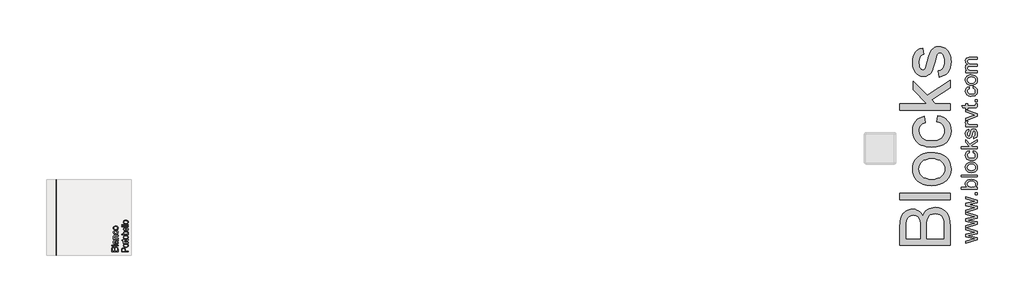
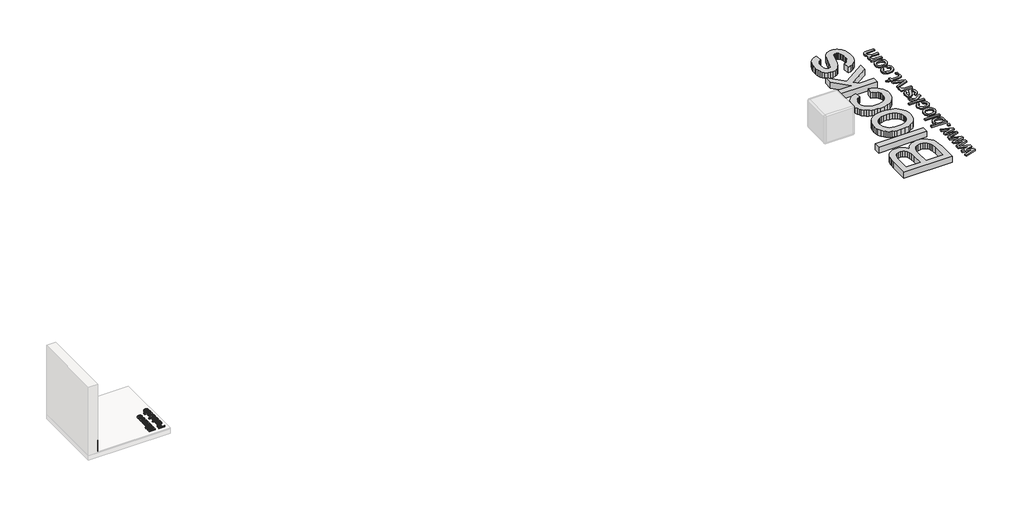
# One storey, part 14 of 14: 5 proxies.
"""IFC4 building model written with IfcOpenShell, lengths in millimetres."""

from ifc_helpers import new_model, si_unit, frame, origin, origin_with_axes, place, context, project, spatial, polyline, outline, extrude, element, save
from ifc_brep_helpers import plane_surface, extruded_surface, spline_curve, advanced_brep

model = new_model("IFC4")

# Units and contexts
model_context = context("Model", 3, world=origin())
ifc_project = project(units=[si_unit("LENGTHUNIT", "METRE", prefix="MILLI")], contexts=[model_context])

# Site, building, storey
site = spatial("IfcSite", under=ifc_project)
building = spatial("IfcBuilding", under=site)
storey = spatial("IfcBuildingStorey", under=building, Name="PORTOBELLO - SHOWROOM", Elevation=0.0)

# Proxies
placement = place(None, origin())
element("IfcBuildingElementProxy", 1, Name="RODAPE CRISTALLO BIANCO 20X120 POL RET", ObjectType="RODAPE CRISTALLO BIANCO 20X120 POL RET", at=placement, inside=storey, context=model_context, shape_type="AdvancedBrep", body=[
    advanced_brep(
    [(-11677.661959, 32135.3842114, 217.0), (-11677.661959, 32135.3842114, 17.0), (-11670.661959, 32135.3842114, 17.0), (-11670.661959, 32135.3842114, 210.0), (-11677.661959, 33335.3842114, 217.0), (-11670.661959, 33335.3842114, 210.0), (-11670.661959, 33335.3842114, 17.0), (-11677.661959, 33335.3842114, 17.0)],
    [
        (0, 1),
        (1, 2),
        (2, 3),
        (3, 0, spline_curve(3, [(-11670.661959, 32135.3842114, 210.0), (-11670.661959, 32135.3842114, 214.666666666), (-11672.995292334, 32135.3842114, 217.0), (-11677.661959, 32135.3842114, 217.0)], [4, 4], [0.0, 0.029527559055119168])),
        (4, 5, spline_curve(3, [(-11677.661959, 33335.3842114, 217.0), (-11672.995292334, 33335.3842114, 217.0), (-11670.661959, 33335.3842114, 214.666666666), (-11670.661959, 33335.3842114, 210.0)], [4, 4], [0.0, 0.029527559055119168])),
        (5, 6),
        (6, 7),
        (7, 4),
        (0, 4),
        (7, 1),
        (6, 2),
        (5, 3),
    ],
    [
        plane_surface(frame((-11877.661959, 32135.3842114, 17.0), z_axis=(0.0, -1.0, 0.0), x_axis=(0.0, 0.0, 1.0))),
        plane_surface(frame((-11877.661959, 33335.3842114, 17.0), z_axis=(0.0, 1.0, 0.0), x_axis=(0.0, 0.0, 1.0))),
        plane_surface(frame((-11677.661959, 32135.3842114, 217.0), z_axis=(-1.0, 0.0, 0.0), x_axis=(0.0, 1.0, 0.0))),
        plane_surface(frame((-11677.661959, 32135.3842114, 17.0), z_axis=(0.0, 0.0, -1.0), x_axis=(0.0, 1.0, 0.0))),
        plane_surface(frame((-11670.661959, 32135.3842114, 17.0), z_axis=(1.0, 0.0, 0.0), x_axis=(0.0, 1.0, 0.0))),
        extruded_surface(spline_curve(3, [(-11670.661959, 33335.3842114, 210.0), (-11670.661959, 33335.3842114, 214.666666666), (-11672.995292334, 33335.3842114, 217.0), (-11677.661959, 33335.3842114, 217.0)], [4, 4], [0.0, 0.029527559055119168]), (0.0, -1200.0, 0.0), 1200.0),
    ],
    [
        (0, [[1, 2, 3, 4]]),
        (1, [[5, 6, 7, 8]]),
        (2, [[-1, 9, -8, 10]]),
        (3, [[-2, -10, -7, 11]]),
        (4, [[-3, -11, -6, 12]]),
        (5, [[-4, -12, -5, -9]]),
    ],
),
])
element("IfcBuildingElementProxy", 2, Name="10mm Arial", ObjectType="10mm Arial", at=placement, inside=storey, context=model_context, shape_type="SweptSolid", body=[
    extrude(outline(polyline([(-10690.4182558, 32194.2602677), (-10790.8745659, 32194.2602677), (-10790.8745659, 32232.5935716), (-10787.9192472, 32251.3678161), (-10778.832562, 32262.4533269), (-10765.9812176, 32266.4632406), (-10754.245782, 32263.090989), (-10745.3553004, 32252.9006577), (-10735.9865723, 32265.2737555), (-10720.3638502, 32269.6025003), (-10706.862581, 32266.6471816), (-10697.2485982, 32259.3263299), (-10692.1473012, 32248.4002346), (-10690.4182558, 32232.299266), (-10690.4182558, 32194.2602677)]), holes=[polyline([(-10750.0641899, 32206.8173065), (-10750.0641899, 32229.7486175), (-10751.1433105, 32243.1395221), (-10755.7908863, 32251.1961378), (-10763.9701294, 32253.9062018), (-10772.1616351, 32251.3800788), (-10777.0054147, 32244.1450662), (-10778.3175272, 32228.0073094), (-10778.3175272, 32206.8173065), (-10750.0641899, 32206.8173065)]), polyline([(-10702.9752946, 32206.8173065), (-10702.9752946, 32232.5690461), (-10703.4658039, 32241.8887233), (-10706.2003934, 32249.7736608), (-10711.779937, 32254.9975851), (-10720.2412229, 32257.0454615), (-10730.0023585, 32254.6419658), (-10735.8271567, 32246.8551303), (-10737.5071512, 32231.3427728), (-10737.5071512, 32206.8173065), (-10702.9752946, 32206.8173065)])]), frame((0.0, 0.0, 17.0), z_axis=(0.0, 0.0, 1.0), x_axis=(1.0, 0.0, 0.0)), (0.0, 0.0, 1.0), 20.0),
    extrude(outline(polyline([(-10778.3175272, 32285.2987988), (-10790.8745659, 32285.2987988), (-10790.8745659, 32297.8558375), (-10778.3175272, 32297.8558375), (-10778.3175272, 32285.2987988)])), frame((0.0, 0.0, 17.0), z_axis=(0.0, 0.0, 1.0), x_axis=(1.0, 0.0, 0.0)), (0.0, 0.0, 1.0), 20.0),
    extrude(outline(polyline([(-10690.4182558, 32285.2987988), (-10764.1908586, 32285.2987988), (-10764.1908586, 32297.8558375), (-10690.4182558, 32297.8558375), (-10690.4182558, 32285.2987988)])), frame((0.0, 0.0, 17.0), z_axis=(0.0, 0.0, 1.0), x_axis=(1.0, 0.0, 0.0)), (0.0, 0.0, 1.0), 20.0),
    extrude(outline(polyline([(-10699.8360349, 32363.7802911), (-10691.325698, 32351.603397), (-10688.8486259, 32338.1511787), (-10690.338548, 32327.6573448), (-10694.8083143, 32319.9164945), (-10701.5957371, 32315.1432256), (-10710.0386289, 32313.552136), (-10719.9714427, 32315.9556317), (-10727.1819298, 32322.2709393), (-10731.3022082, 32331.063319), (-10733.1906691, 32341.9281005), (-10737.5071512, 32363.7067147), (-10740.3030543, 32363.7802911), (-10749.5736806, 32360.3222003), (-10753.2034496, 32346.4407864), (-10750.7876912, 32333.7365948), (-10742.2160407, 32327.6788046), (-10743.7856706, 32315.1217658), (-10756.0484037, 32320.5541566), (-10763.2343654, 32331.4925146), (-10765.7604884, 32348.0594671), (-10763.528671, 32363.277519), (-10757.9246019, 32371.873695), (-10749.4020023, 32375.7241932), (-10738.4145934, 32376.3373298), (-10722.7918714, 32376.3373298), (-10700.9764691, 32376.974992), (-10690.4182558, 32379.4765895), (-10690.4182558, 32366.9195508), (-10699.8360349, 32363.7802911)]), holes=[polyline([(-10724.9501124, 32363.7802911), (-10721.0996142, 32343.5222559), (-10719.0640005, 32332.7187879), (-10715.7530625, 32327.8259574), (-10710.9215457, 32326.1091748), (-10704.1279915, 32329.8493084), (-10701.4056647, 32340.8244546), (-10704.4100343, 32353.5286461), (-10711.6818351, 32361.7201519), (-10721.3939198, 32363.7067147), (-10724.9501124, 32363.7802911)])]), frame((0.0, 0.0, 17.0), z_axis=(0.0, 0.0, 1.0), x_axis=(1.0, 0.0, 0.0)), (0.0, 0.0, 1.0), 20.0),
    extrude(outline(polyline([(-10690.4182558, 32393.6032581), (-10764.1908586, 32393.6032581), (-10764.1908586, 32406.1602969), (-10753.8901627, 32406.1602969), (-10762.792907, 32415.762017), (-10765.7604884, 32428.8708787), (-10763.3692554, 32440.7289417), (-10757.090736, 32448.8223456), (-10747.856898, 32452.5870047), (-10735.7167921, 32453.2491923), (-10690.4182558, 32453.2491923), (-10690.4182558, 32440.6921535), (-10734.024535, 32440.6921535), (-10745.1345712, 32439.245151), (-10751.0084204, 32434.1315913), (-10753.2034496, 32425.5108899), (-10748.2738309, 32411.8869933), (-10741.1307888, 32407.591971), (-10729.5609001, 32406.1602969), (-10690.4182558, 32406.1602969), (-10690.4182558, 32393.6032581)])), frame((0.0, 0.0, 17.0), z_axis=(0.0, 0.0, 1.0), x_axis=(1.0, 0.0, 0.0)), (0.0, 0.0, 1.0), 20.0),
    extrude(outline(polyline([(-10717.1019632, 32517.604016), (-10715.5323333, 32530.1610547), (-10704.3640491, 32526.6600444), (-10695.924223, 32520.0810881), (-10690.6175252, 32511.0434537), (-10688.8486259, 32500.1664094), (-10691.316501, 32486.8092273), (-10698.7201261, 32476.3644443), (-10710.734539, 32469.6230068), (-10727.034777, 32467.3758609), (-10747.8936862, 32471.2140964), (-10761.2968535, 32482.9127438), (-10765.7604884, 32499.9947311), (-10764.2276468, 32510.605061), (-10759.6291218, 32519.0878067), (-10752.2101682, 32525.173188), (-10742.2160407, 32528.5914249), (-10740.6464109, 32516.0343861), (-10750.0519272, 32510.2095879), (-10753.2034496, 32500.092833), (-10751.6522139, 32491.9779693), (-10746.9985066, 32485.5369687), (-10738.9909419, 32481.3339169), (-10727.3781336, 32479.9328997), (-10715.6089754, 32481.3032601), (-10707.5738195, 32485.4143414), (-10702.9477034, 32491.738846), (-10701.4056647, 32499.7494765), (-10705.2561629, 32511.583014), (-10717.1019632, 32517.604016)])), frame((0.0, 0.0, 17.0), z_axis=(0.0, 0.0, 1.0), x_axis=(1.0, 0.0, 0.0)), (0.0, 0.0, 1.0), 20.0),
    extrude(outline(polyline([(-10727.3045572, 32538.009204), (-10745.0916516, 32540.7253994), (-10757.5935081, 32548.8739856), (-10763.7187433, 32558.9416895), (-10765.7604884, 32570.9959562), (-10763.2742193, 32584.1875914), (-10755.8154118, 32594.7243449), (-10743.9726772, 32601.6313294), (-10728.3346268, 32603.9336575), (-10705.9919269, 32599.8624301), (-10693.349049, 32588.0043671), (-10688.8486259, 32570.9959562), (-10691.325698, 32557.6449055), (-10698.7569143, 32547.1204147), (-10710.8479693, 32540.2870067), (-10727.3045572, 32538.009204)]), holes=[polyline([(-10727.3290826, 32550.5662427), (-10715.9645947, 32552.0193766), (-10707.8681251, 32556.3787783), (-10703.0212798, 32562.9393405), (-10701.4056647, 32570.9959562), (-10703.0304769, 32579.0157837), (-10707.9049133, 32585.5640832), (-10716.1086818, 32589.9234849), (-10727.7214901, 32591.3766187), (-10738.7548843, 32589.9142878), (-10746.7409893, 32585.527295), (-10751.5878345, 32578.9697985), (-10753.2034496, 32570.9959562), (-10751.5939659, 32562.9393405), (-10746.7655147, 32556.3787783), (-10738.6874392, 32552.0193766), (-10727.3290826, 32550.5662427)])]), frame((0.0, 0.0, 17.0), z_axis=(0.0, 0.0, 1.0), x_axis=(1.0, 0.0, 0.0)), (0.0, 0.0, 1.0), 20.0),
])
element("IfcBuildingElementProxy", 3, Name="10mm Arial Narrow", ObjectType="10mm Arial Narrow", at=placement, inside=storey, context=model_context, shape_type="SweptSolid", body=[
    extrude(outline(polyline([(-10530.4182558, 32191.3953268), (-10631.1368595, 32191.3953268), (-10631.1368595, 32222.6922115), (-10629.2585388, 32238.987913), (-10619.7780956, 32250.4608991), (-10602.7589868, 32254.7505776), (-10590.6831613, 32252.9642692), (-10581.0567675, 32247.6053439), (-10574.7555091, 32237.8615551), (-10572.6550896, 32222.9206559), (-10572.6550896, 32201.1422885), (-10530.4182558, 32201.1422885), (-10530.4182558, 32191.3953268)]), holes=[polyline([(-10584.0265449, 32201.1422885), (-10584.0265449, 32224.1136434), (-10588.5573591, 32239.9778388), (-10602.2259498, 32245.0036159), (-10612.3917263, 32242.5288014), (-10618.1916761, 32236.5511726), (-10619.7654043, 32223.885199), (-10619.7654043, 32201.1422885), (-10584.0265449, 32201.1422885)])]), frame((0.0, 0.0, 17.0), z_axis=(0.0, 0.0, 1.0), x_axis=(1.0, 0.0, 0.0)), (0.0, 0.0, 1.0), 20.0),
    extrude(outline(polyline([(-10566.969362, 32262.8730456), (-10583.5601375, 32264.8275145), (-10595.5122224, 32270.6909211), (-10602.7367769, 32279.5494878), (-10605.1449618, 32290.4894369), (-10602.7367769, 32301.3024725), (-10595.5122224, 32310.186422), (-10583.7505079, 32316.1259767), (-10567.7308434, 32318.1058283), (-10550.5689568, 32316.1608779), (-10538.4265016, 32310.3260269), (-10531.201947, 32301.4769787), (-10528.7937622, 32290.4894369), (-10531.2082927, 32279.6288088), (-10538.4518843, 32270.7543779), (-10550.4103148, 32264.8433787), (-10566.969362, 32262.8730456)]), holes=[polyline([(-10566.9947447, 32272.6200073), (-10554.4429933, 32273.9240441), (-10545.5717352, 32277.8361547), (-10540.2984767, 32283.6773514), (-10538.5407238, 32290.7686468), (-10540.3143409, 32297.48872), (-10545.635192, 32303.1807933), (-10554.5223143, 32307.0643483), (-10566.9947447, 32308.3588666), (-10579.508422, 32307.0548298), (-10588.3669887, 32303.1427192), (-10593.6402473, 32297.3015225), (-10595.3980001, 32290.2102271), (-10593.6307288, 32283.4425614), (-10588.3289147, 32277.7600066), (-10579.4608294, 32273.9050071), (-10566.9947447, 32272.6200073)])]), frame((0.0, 0.0, 17.0), z_axis=(0.0, 0.0, 1.0), x_axis=(1.0, 0.0, 0.0)), (0.0, 0.0, 1.0), 20.0),
    extrude(outline(polyline([(-10538.5407238, 32389.5835471), (-10528.7937622, 32391.2080407), (-10528.7937622, 32383.847054), (-10530.9132187, 32375.5722897), (-10536.7131685, 32371.2572286), (-10551.3589937, 32370.0896238), (-10593.7735065, 32370.0896238), (-10593.7735065, 32361.9671557), (-10597.0224938, 32361.9671557), (-10592.1490129, 32360.3426621), (-10593.7735065, 32352.7786138), (-10591.4509883, 32346.6994541), (-10584.9657053, 32342.8285904), (-10569.5583987, 32340.8487388), (-10530.4182558, 32340.8487388), (-10530.4182558, 32331.1017772), (-10603.5204682, 32331.1017772), (-10603.5204682, 32340.8487388), (-10593.824272, 32340.8487388), (-10602.9112831, 32347.0928861), (-10605.1449618, 32353.4893297), (-10603.5204682, 32361.9671557), (-10603.5204682, 32370.0896238), (-10619.7654043, 32370.0896238), (-10627.8878723, 32379.8365854), (-10603.5204682, 32379.8365854), (-10603.5204682, 32389.5835471), (-10593.7735065, 32389.5835471), (-10593.7735065, 32379.8365854), (-10549.125315, 32379.8365854), (-10541.1297605, 32380.6995977), (-10538.5407238, 32385.3192514), (-10538.5407238, 32389.5835471)])), frame((0.0, 0.0, 17.0), z_axis=(0.0, 0.0, 1.0), x_axis=(1.0, 0.0, 0.0)), (0.0, 0.0, 1.0), 20.0),
    extrude(outline(polyline([(-10566.969362, 32396.0815215), (-10583.5601375, 32398.0359904), (-10595.5122224, 32403.899397), (-10602.7367769, 32412.7579637), (-10605.1449618, 32423.6979129), (-10602.7367769, 32434.5109485), (-10595.5122224, 32443.3948979), (-10583.7505079, 32449.3344526), (-10567.7308434, 32451.3143042), (-10550.5689568, 32449.3693539), (-10538.4265016, 32443.5345028), (-10531.201947, 32434.6854546), (-10528.7937622, 32423.6979129), (-10531.2082927, 32412.8372847), (-10538.4518843, 32403.9628538), (-10550.4103148, 32398.0518546), (-10566.969362, 32396.0815215)]), holes=[polyline([(-10566.9947447, 32405.8284832), (-10554.4429933, 32407.13252), (-10545.5717352, 32411.0446306), (-10540.2984767, 32416.8858274), (-10538.5407238, 32423.9771227), (-10540.3143409, 32430.6971959), (-10545.635192, 32436.3892692), (-10554.5223143, 32440.2728242), (-10566.9947447, 32441.5673426), (-10579.508422, 32440.2633057), (-10588.3669887, 32436.3511951), (-10593.6402473, 32430.5099984), (-10595.3980001, 32423.418703), (-10593.6307288, 32416.6510373), (-10588.3289147, 32410.9684825), (-10579.4608294, 32407.113483), (-10566.9947447, 32405.8284832)])]), frame((0.0, 0.0, 17.0), z_axis=(0.0, 0.0, 1.0), x_axis=(1.0, 0.0, 0.0)), (0.0, 0.0, 1.0), 20.0),
    extrude(outline(polyline([(-10530.4182558, 32474.0572148), (-10530.4182558, 32464.3102531), (-10631.1368595, 32464.3102531), (-10631.1368595, 32474.0572148), (-10595.7279754, 32474.0572148), (-10602.8097522, 32481.4562755), (-10605.1449618, 32490.6575088), (-10600.9441229, 32503.5392355), (-10588.2146925, 32512.816617), (-10567.5277817, 32516.2940486), (-10551.0734382, 32514.3617896), (-10538.8706991, 32508.5650126), (-10531.3129964, 32500.1918903), (-10528.7937622, 32490.5305953), (-10531.4081816, 32481.189757), (-10539.1752916, 32474.0572148), (-10530.4182558, 32474.0572148)]), holes=[polyline([(-10567.5277817, 32474.0572148), (-10550.2802284, 32476.1385972), (-10541.5485753, 32482.0273865), (-10538.5407238, 32490.4798298), (-10540.3302051, 32496.4225574), (-10545.6986488, 32501.6609148), (-10567.1216583, 32506.5470869), (-10588.5573591, 32501.8385937), (-10593.6878399, 32496.5938907), (-10595.3980001, 32490.2767681), (-10593.6085189, 32484.2991393), (-10588.2400752, 32479.0068437), (-10567.5277817, 32474.0572148)])]), frame((0.0, 0.0, 17.0), z_axis=(0.0, 0.0, 1.0), x_axis=(1.0, 0.0, 0.0)), (0.0, 0.0, 1.0), 20.0),
    extrude(outline(polyline([(-10553.1611663, 32568.2778441), (-10551.5366727, 32578.0248057), (-10541.6501061, 32574.3252754), (-10534.5302552, 32568.5062885), (-10530.2278854, 32560.8026352), (-10528.7937622, 32551.4491056), (-10531.2082927, 32539.8555516), (-10538.4518843, 32530.7114294), (-10550.2580186, 32524.7718746), (-10566.3601769, 32522.792023), (-10583.0271006, 32524.7813931), (-10595.2076298, 32530.7495034), (-10602.6606288, 32539.7635393), (-10605.1449618, 32550.8906859), (-10602.7462955, 32561.5736351), (-10595.5502964, 32570.3211524), (-10583.8107918, 32576.1560035), (-10567.7816088, 32578.1009539), (-10564.5326216, 32578.0248057), (-10564.5326216, 32532.5389847), (-10545.0894637, 32538.5419962), (-10540.1779088, 32544.4720325), (-10538.5407238, 32551.5760192), (-10542.1958345, 32561.7544869), (-10553.1611663, 32568.2778441)]), holes=[polyline([(-10574.2795832, 32533.1989352), (-10574.2795832, 32568.2778441), (-10588.5446677, 32564.0135484), (-10593.684667, 32558.1882158), (-10595.3980001, 32550.9668341), (-10589.6868898, 32538.7577493), (-10574.2795832, 32533.1989352)])]), frame((0.0, 0.0, 17.0), z_axis=(0.0, 0.0, 1.0), x_axis=(1.0, 0.0, 0.0)), (0.0, 0.0, 1.0), 20.0),
    extrude(outline(polyline([(-10530.4182558, 32591.0207546), (-10631.1368595, 32591.0207546), (-10631.1368595, 32600.7677163), (-10530.4182558, 32600.7677163), (-10530.4182558, 32591.0207546)])), frame((0.0, 0.0, 17.0), z_axis=(0.0, 0.0, 1.0), x_axis=(1.0, 0.0, 0.0)), (0.0, 0.0, 1.0), 20.0),
    extrude(outline(polyline([(-10530.4182558, 32617.0126523), (-10631.1368595, 32617.0126523), (-10631.1368595, 32626.759614), (-10530.4182558, 32626.759614), (-10530.4182558, 32617.0126523)])), frame((0.0, 0.0, 17.0), z_axis=(0.0, 0.0, 1.0), x_axis=(1.0, 0.0, 0.0)), (0.0, 0.0, 1.0), 20.0),
    extrude(outline(polyline([(-10566.969362, 32638.1310693), (-10583.5601375, 32640.0855381), (-10595.5122224, 32645.9489448), (-10602.7367769, 32654.8075115), (-10605.1449618, 32665.7474606), (-10602.7367769, 32676.5604962), (-10595.5122224, 32685.4444456), (-10583.7505079, 32691.3840004), (-10567.7308434, 32693.363852), (-10550.5689568, 32691.4189016), (-10538.4265016, 32685.5840505), (-10531.201947, 32676.7350023), (-10528.7937622, 32665.7474606), (-10531.2082927, 32654.8868324), (-10538.4518843, 32646.0124015), (-10550.4103148, 32640.1014023), (-10566.969362, 32638.1310693)]), holes=[polyline([(-10566.9947447, 32647.8780309), (-10554.4429933, 32649.1820678), (-10545.5717352, 32653.0941784), (-10540.2984767, 32658.9353751), (-10538.5407238, 32666.0266704), (-10540.3143409, 32672.7467436), (-10545.635192, 32678.4388169), (-10554.5223143, 32682.322372), (-10566.9947447, 32683.6168903), (-10579.508422, 32682.3128534), (-10588.3669887, 32678.4007429), (-10593.6402473, 32672.5595461), (-10595.3980001, 32665.4682508), (-10593.6307288, 32658.700585), (-10588.3289147, 32653.0180302), (-10579.4608294, 32649.1630307), (-10566.9947447, 32647.8780309)])]), frame((0.0, 0.0, 17.0), z_axis=(0.0, 0.0, 1.0), x_axis=(1.0, 0.0, 0.0)), (0.0, 0.0, 1.0), 20.0),
])
element("IfcBuildingElementProxy", 4, Name="25mm Arial", ObjectType="25mm Arial", at=placement, inside=storey, context=model_context, shape_type="SweptSolid", body=[
    extrude(outline(polyline([(2978.9669276, 32875.993505), (2800.9469451, 32821.6050861), (2978.9669276, 32767.0391207), (2978.9669276, 32729.1472752), (2870.809621, 32704.9896909), (2837.0871048, 32697.999933), (2978.9669276, 32666.9139044), (2978.9669276, 32628.7768042), (2800.9469451, 32574.3883853), (2978.9669276, 32519.82242), (2978.9669276, 32481.9305745), (2870.809621, 32457.7729901), (2837.0871048, 32450.7832322), (2978.9669276, 32419.6972036), (2978.9669276, 32381.5601034), (2794.5354207, 32325.2128445), (2794.5354207, 32357.7704011), (2902.1409042, 32389.6535073), (2940.5845727, 32399.1571255), (2903.5511186, 32406.9439611), (2794.5354207, 32432.2665051), (2794.5354207, 32469.5452139), (2903.2445502, 32494.8677579), (2936.7831255, 32501.7962022), (2901.4051403, 32511.7290161), (2794.5354207, 32543.6121223), (2794.5354207, 32572.4295453), (2794.5354207, 32576.3536199), (2794.5354207, 32604.9871018), (2902.1409042, 32636.8702081), (2940.5845727, 32646.3738263), (2903.5511186, 32654.1606619), (2794.5354207, 32679.4832059), (2794.5354207, 32716.7619147), (2903.2445502, 32742.0844587), (2936.7831255, 32749.0129029), (2901.4051403, 32758.9457168), (2794.5354207, 32790.8288231), (2794.5354207, 32819.646246), (2794.5354207, 32823.5703206), (2794.5354207, 32852.2038026), (2902.1409042, 32884.0869088), (2940.5845727, 32893.5905271), (2903.5511186, 32901.3773626), (2794.5354207, 32926.6999066), (2794.5354207, 32963.9786155), (2903.2445502, 32989.3011595), (2936.7831255, 32996.2296037), (2901.4051403, 33006.1624176), (2794.5354207, 33038.0455238), (2794.5354207, 33070.7870214), (2978.9669276, 33014.2558215), (2978.9669276, 32976.363976), (2870.809621, 32952.2063916), (2837.0871048, 32945.2166337), (2978.9669276, 32914.1306051), (2978.9669276, 32875.993505)])), origin_with_axes(), (0.0, 0.0, 1.0), 20.0),
    extrude(outline(polyline([(2978.9669276, 33100.217581), (2947.5743307, 33100.217581), (2947.5743307, 33131.6101779), (2978.9669276, 33131.6101779), (2978.9669276, 33100.217581)])), origin_with_axes(), (0.0, 0.0, 1.0), 20.0),
    extrude(outline(polyline([(2978.9669276, 33221.8638941), (2978.9669276, 33190.4712972), (2727.8261522, 33190.4712972), (2727.8261522, 33221.8638941), (2820.9616106, 33221.8638941), (2807.6833699, 33232.1875826), (2798.1989122, 33243.8448433), (2792.5082376, 33256.8356763), (2790.611346, 33271.1600814), (2792.3204645, 33287.3315608), (2797.4478198, 33302.613992), (2805.6715152, 33316.1336553), (2816.669654, 33327.016831), (2846.5600661, 33342.0080223), (2883.9920592, 33347.4342818), (2925.8999498, 33341.8164171), (2942.8301858, 33334.7940863), (2957.0779489, 33324.9628232), (2968.3711597, 33313.1618586), (2976.4377389, 33300.2304233), (2981.2776864, 33286.1685172), (2982.8910022, 33270.9761404), (2980.8101697, 33256.1803864), (2974.567672, 33243.0630941), (2964.1635094, 33231.6242633), (2949.5976816, 33221.8638941), (2978.9669276, 33221.8638941)]), holes=[polyline([(2885.4635871, 33221.8638941), (2911.6445225, 33224.0098724), (2929.3641719, 33230.4478073), (2945.9648469, 33246.8951982), (2951.4984053, 33268.2783391), (2947.4210465, 33286.3965274), (2935.1889701, 33301.878228), (2914.8788183, 33312.5008206), (2886.5672331, 33316.0416848), (2857.8417807, 33312.6464406), (2837.7615551, 33302.4607079), (2825.943346, 33287.4618523), (2822.003943, 33269.6272398), (2826.0813017, 33251.5090515), (2838.3133781, 33236.0273509), (2858.2556479, 33225.4047583), (2885.4635871, 33221.8638941)])]), origin_with_axes(), (0.0, 0.0, 1.0), 20.0),
    extrude(outline(polyline([(2978.9669276, 33382.7509533), (2727.8261522, 33382.7509533), (2727.8261522, 33414.1435502), (2978.9669276, 33414.1435502), (2978.9669276, 33382.7509533)])), origin_with_axes(), (0.0, 0.0, 1.0), 20.0),
    extrude(outline(polyline([(2886.7511741, 33453.3842964), (2862.8656692, 33455.0819185), (2842.2834379, 33460.1747849), (2825.0044805, 33468.6628955), (2811.0287968, 33480.5462504), (2795.7157087, 33505.7155102), (2790.611346, 33535.851177), (2792.1652643, 33553.1703715), (2796.8270189, 33568.830265), (2804.59661, 33582.8308574), (2815.4740376, 33595.1721487), (2829.0914195, 33605.2448344), (2845.080874, 33612.4396098), (2863.4424008, 33616.7564751), (2884.1760002, 33618.1954302), (2915.8904938, 33615.6509131), (2940.0327498, 33608.0173617), (2958.112617, 33595.5170381), (2971.6399445, 33578.3722042), (2980.0782378, 33558.008403), (2982.8910022, 33535.851177), (2981.3428321, 33518.2790635), (2976.6983219, 33502.4735501), (2968.9574716, 33488.4346367), (2958.1202812, 33476.1623232), (2944.3706916, 33466.1969365), (2927.8926439, 33459.0788031), (2908.6861381, 33454.8079231), (2886.7511741, 33453.3842964)]), holes=[polyline([(2886.6898605, 33484.7768933), (2915.1010804, 33488.409728), (2935.3422543, 33499.3082321), (2947.4593675, 33515.7096377), (2951.4984053, 33535.851177), (2947.4363749, 33555.9007457), (2935.2502838, 33572.2714945), (2914.7408626, 33583.1699986), (2885.7088418, 33586.8028333), (2858.1253564, 33583.147006), (2838.1600939, 33572.179524), (2826.0429807, 33555.7857826), (2822.003943, 33535.851177), (2826.0276523, 33515.7096377), (2838.0987803, 33499.3082321), (2858.2939689, 33488.409728), (2886.6898605, 33484.7768933)])]), origin_with_axes(), (0.0, 0.0, 1.0), 20.0),
    extrude(outline(polyline([(2912.2576591, 33771.2343402), (2916.1817337, 33802.6269371), (2944.1024443, 33793.8744113), (2965.2020096, 33777.4270205), (2978.468754, 33754.8329346), (2982.8910022, 33727.6403238), (2981.3485803, 33710.0337214), (2976.7213146, 33694.2473685), (2969.009205, 33680.2812651), (2958.2122517, 33668.1354111), (2944.533556, 33658.304148), (2928.1762196, 33651.2818172), (2887.4256244, 33645.6639525), (2859.4895854, 33648.0628497), (2835.2783516, 33655.2595412), (2815.7269564, 33667.3689902), (2801.7704332, 33684.5061599), (2793.4011178, 33705.0079169), (2790.611346, 33727.2111281), (2794.4434502, 33753.7369528), (2805.9397625, 33774.943817), (2824.4871464, 33790.1572703), (2849.4724653, 33798.7028625), (2853.3965399, 33767.3102656), (2839.7005998, 33761.6157589), (2829.882749, 33752.74827), (2823.9736445, 33741.1983081), (2822.003943, 33727.4563828), (2825.8820323, 33707.1692236), (2837.5163004, 33691.0667221), (2857.5352123, 33680.5590926), (2886.5672331, 33677.0565494), (2915.9901285, 33680.4824505), (2936.0780183, 33690.7601538), (2947.6433085, 33706.5714154), (2951.4984053, 33726.5979915), (2949.0918439, 33742.8537771), (2941.8721597, 33756.1818352), (2929.6554118, 33765.8770587), (2912.2576591, 33771.2343402)])), origin_with_axes(), (0.0, 0.0, 1.0), 20.0),
    extrude(outline(polyline([(2978.9669276, 33830.0954594), (2727.8261522, 33830.0954594), (2727.8261522, 33861.4880564), (2862.7775308, 33861.4880564), (2794.5354207, 33931.8761448), (2794.5354207, 33975.2862202), (2863.6359221, 33903.9784268), (2978.9669276, 33979.2102948), (2978.9669276, 33942.5447226), (2885.4635871, 33881.4763114), (2904.9000192, 33861.4880564), (2978.9669276, 33861.4880564), (2978.9669276, 33830.0954594)])), origin_with_axes(), (0.0, 0.0, 1.0), 20.0),
    extrude(outline(polyline([(2924.029883, 33994.9065933), (2920.1058083, 34026.2991902), (2933.5335012, 34031.2502687), (2943.4050014, 34040.830529), (2949.4750543, 34055.1012847), (2951.4984053, 34074.1238496), (2949.6436669, 34092.9164882), (2944.0794517, 34106.1295832), (2936.0167046, 34113.9470756), (2926.6663706, 34116.5529064), (2918.6649372, 34113.9317471), (2912.5642274, 34106.0682695), (2903.6124322, 34073.7559676), (2888.2533589, 34026.4831312), (2880.5355012, 34014.5193021), (2870.3191117, 34005.8510826), (2858.2556479, 34000.5857716), (2844.9965677, 33998.8306679), (2821.6054041, 34004.4715252), (2803.7324705, 34019.8612553), (2794.4434502, 34039.8188535), (2790.611346, 34066.8275233), (2792.1518519, 34087.2603025), (2796.7733695, 34105.0259372), (2804.0237105, 34119.3120213), (2813.4506866, 34129.3061489), (2825.7517408, 34135.9280248), (2841.624316, 34140.097354), (2845.5483907, 34108.7047571), (2835.6692262, 34104.7423615), (2828.2272801, 34096.9018764), (2823.5597772, 34085.10666), (2822.003943, 34069.28007), (2823.4907994, 34051.2538522), (2827.9513686, 34039.2363737), (2834.3893035, 34032.476542), (2841.808257, 34030.2232648), (2850.9439933, 34033.9633984), (2857.8724375, 34045.6743086), (2864.5556271, 34072.7136353), (2879.3322205, 34118.7908552), (2886.3986205, 34130.9616178), (2896.0708513, 34140.1893245), (2908.3795697, 34146.0064586), (2923.3554326, 34147.9455033), (2938.8371333, 34145.6692334), (2953.3991289, 34138.8404239), (2965.8994525, 34127.7196577), (2975.1961371, 34112.5675181), (2980.9672859, 34094.2653888), (2982.8910022, 34073.6946539), (2979.1815254, 34042.0414739), (2968.0530951, 34018.9415503), (2949.6283385, 34003.5211633), (2924.029883, 33994.9065933)])), origin_with_axes(), (0.0, 0.0, 1.0), 20.0),
    extrude(outline(polyline([(2978.9669276, 34346.356526), (2794.5354207, 34281.3640402), (2794.5354207, 34314.5347334), (2905.0226465, 34353.8981069), (2942.1787281, 34365.7316444), (2907.1073112, 34377.3199273), (2794.5354207, 34416.8672417), (2794.5354207, 34450.0992486), (2978.9669276, 34386.0264678), (2978.9669276, 34346.356526)])), origin_with_axes(), (0.0, 0.0, 1.0), 20.0),
    extrude(outline(polyline([(2978.9669276, 34183.2621748), (2794.5354207, 34183.2621748), (2794.5354207, 34210.7306971), (2821.820002, 34210.7306971), (2806.0010762, 34220.8781088), (2796.681399, 34230.2284429), (2790.611346, 34249.8488159), (2793.0332358, 34265.4838007), (2800.2989052, 34281.3640402), (2828.4418779, 34270.8794033), (2822.003943, 34248.8064836), (2823.552113, 34239.433157), (2828.1966232, 34231.0561774), (2845.3644497, 34219.743806), (2882.0300218, 34214.6547717), (2978.9669276, 34214.6547717), (2978.9669276, 34183.2621748)])), origin_with_axes(), (0.0, 0.0, 1.0), 20.0),
    extrude(outline(polyline([(2952.7859923, 34544.2770394), (2979.8866326, 34548.201114), (2982.8910022, 34524.71798), (2981.5880868, 34509.6501466), (2977.6793406, 34498.4144173), (2964.0063931, 34485.2932929), (2928.3831532, 34481.4918456), (2825.9280176, 34481.4918456), (2825.9280176, 34457.9473979), (2794.5354207, 34457.9473979), (2794.5354207, 34481.4918456), (2749.7151309, 34481.4918456), (2731.2597175, 34512.8844425), (2794.5354207, 34512.8844425), (2794.5354207, 34544.2770394), (2825.9280176, 34544.2770394), (2825.9280176, 34512.8844425), (2927.4634482, 34512.8844425), (2943.650256, 34514.5399115), (2949.3830838, 34519.9048572), (2951.4984053, 34530.6040919), (2952.7859923, 34544.2770394)])), origin_with_axes(), (0.0, 0.0, 1.0), 20.0),
    extrude(outline(polyline([(2978.9669276, 34583.5177856), (2947.5743307, 34583.5177856), (2947.5743307, 34614.9103825), (2978.9669276, 34614.9103825), (2978.9669276, 34583.5177856)])), origin_with_axes(), (0.0, 0.0, 1.0), 20.0),
    extrude(outline(polyline([(2912.2576591, 34791.4937402), (2916.1817337, 34822.8863371), (2944.1024443, 34814.1338113), (2965.2020096, 34797.6864204), (2978.468754, 34775.0923346), (2982.8910022, 34747.8997237), (2981.3485803, 34730.2931214), (2976.7213146, 34714.5067685), (2969.009205, 34700.540665), (2958.2122517, 34688.394811), (2944.533556, 34678.5635479), (2928.1762196, 34671.5412171), (2887.4256244, 34665.9233525), (2859.4895854, 34668.3222497), (2835.2783516, 34675.5189412), (2815.7269564, 34687.6283902), (2801.7704332, 34704.7655598), (2793.4011178, 34725.2673168), (2790.611346, 34747.4705281), (2794.4434502, 34773.9963528), (2805.9397625, 34795.203217), (2824.4871464, 34810.4166703), (2849.4724653, 34818.9622625), (2853.3965399, 34787.5696656), (2839.7005998, 34781.8751588), (2829.882749, 34773.0076699), (2823.9736445, 34761.4577081), (2822.003943, 34747.7157827), (2825.8820323, 34727.4286236), (2837.5163004, 34711.3261221), (2857.5352123, 34700.8184926), (2886.5672331, 34697.3159494), (2915.9901285, 34700.7418505), (2936.0780183, 34711.0195537), (2947.6433085, 34726.8308153), (2951.4984053, 34746.8573914), (2949.0918439, 34763.1131771), (2941.8721597, 34776.4412352), (2929.6554118, 34786.1364586), (2912.2576591, 34791.4937402)])), origin_with_axes(), (0.0, 0.0, 1.0), 20.0),
    extrude(outline(polyline([(2886.7511741, 34842.5067102), (2862.8656692, 34844.2043323), (2842.2834379, 34849.2971987), (2825.0044805, 34857.7853093), (2811.0287968, 34869.6686641), (2795.7157087, 34894.837924), (2790.611346, 34924.9735908), (2792.1652643, 34942.2927853), (2796.8270189, 34957.9526788), (2804.59661, 34971.9532712), (2815.4740376, 34984.2945625), (2829.0914195, 34994.3672481), (2845.080874, 35001.5620236), (2863.4424008, 35005.8788889), (2884.1760002, 35007.317844), (2915.8904938, 35004.7733269), (2940.0327498, 34997.1397755), (2958.112617, 34984.6394518), (2971.6399445, 34967.494618), (2980.0782378, 34947.1308168), (2982.8910022, 34924.9735908), (2981.3428321, 34907.4014773), (2976.6983219, 34891.5959639), (2968.9574716, 34877.5570505), (2958.1202812, 34865.284737), (2944.3706916, 34855.3193503), (2927.8926439, 34848.2012169), (2908.6861381, 34843.9303368), (2886.7511741, 34842.5067102)]), holes=[polyline([(2886.6898605, 34873.8993071), (2915.1010804, 34877.5321418), (2935.3422543, 34888.4306459), (2947.4593675, 34904.8320515), (2951.4984053, 34924.9735908), (2947.4363749, 34945.0231595), (2935.2502838, 34961.3939083), (2914.7408626, 34972.2924124), (2885.7088418, 34975.9252471), (2858.1253564, 34972.2694198), (2838.1600939, 34961.3019378), (2826.0429807, 34944.9081964), (2822.003943, 34924.9735908), (2826.0276523, 34904.8320515), (2838.0987803, 34888.4306459), (2858.2939689, 34877.5321418), (2886.6898605, 34873.8993071)])]), origin_with_axes(), (0.0, 0.0, 1.0), 20.0),
    extrude(outline(polyline([(2978.9669276, 35042.6345155), (2794.5354207, 35042.6345155), (2794.5354207, 35074.0271125), (2824.8856853, 35074.0271125), (2810.9444905, 35083.469417), (2800.0229938, 35095.6095229), (2792.964258, 35110.0335627), (2790.611346, 35126.3276694), (2793.0102432, 35143.7867358), (2800.2069348, 35157.78158), (2811.7262397, 35168.2355601), (2827.0929772, 35175.0720338), (2811.1322636, 35186.5146967), (2799.7317538, 35199.5668433), (2792.891448, 35214.2284737), (2790.611346, 35230.4995877), (2794.4051291, 35254.0976849), (2805.7864783, 35271.549087), (2825.0619621, 35282.332628), (2852.5381486, 35285.9271417), (2978.9669276, 35285.9271417), (2978.9669276, 35254.5345448), (2866.0271551, 35254.5345448), (2839.8155629, 35251.6221456), (2826.9090362, 35241.0761951), (2822.003943, 35223.1419478), (2825.1462683, 35206.1350698), (2834.5732445, 35192.2705171), (2850.9286648, 35183.0504746), (2874.8563229, 35179.9771271), (2978.9669276, 35179.9771271), (2978.9669276, 35148.5845302), (2862.5322761, 35148.5845302), (2844.7819698, 35146.7681128), (2832.1206978, 35141.3188608), (2824.5331317, 35131.7309363), (2822.003943, 35117.4985016), (2823.6900688, 35105.404381), (2828.7484462, 35094.2606222), (2837.0564479, 35085.0635723), (2848.4914466, 35078.8095784), (2885.9540965, 35074.0271125), (2978.9669276, 35074.0271125), (2978.9669276, 35042.6345155)])), origin_with_axes(), (0.0, 0.0, 1.0), 20.0),
])
element("IfcBuildingElementProxy", 5, Name="80mm Arial", ObjectType="80mm Arial", at=placement, inside=storey, context=model_context, shape_type="SweptSolid", body=[
    extrude(outline(polyline([(2549.5235049, 32298.0156207), (1750.1348066, 32298.0156207), (1750.1348066, 32603.0557905), (1751.6046298, 32647.3029601), (1756.0140997, 32686.9515954), (1763.363216, 32722.0016965), (1773.651979, 32752.4532633), (1786.9901678, 32779.0808501), (1803.4875618, 32802.659011), (1823.144161, 32823.1877461), (1845.9599655, 32840.6670552), (1870.6481174, 32854.6273269), (1895.9217591, 32864.5989495), (1921.7808906, 32870.5819231), (1948.2255118, 32872.5762477), (1972.6514132, 32870.8990634), (1996.35765, 32865.8675107), (2019.3442223, 32857.4815895), (2041.61113, 32845.7412999), (2062.4631042, 32830.6100487), (2081.2048757, 32812.0512428), (2097.8364445, 32790.0648821), (2112.3578105, 32764.6509668), (2125.21419, 32794.8097888), (2141.9250439, 32821.2727066), (2162.490372, 32844.0397203), (2186.9101745, 32863.1108297), (2214.4403913, 32878.1810924), (2244.3369627, 32888.9455658), (2276.5998885, 32895.4042498), (2311.2291688, 32897.5571445), (2366.9726739, 32891.6778514), (2418.6665415, 32874.0399721), (2462.627065, 32847.7173279), (2495.170538, 32815.78374), (2518.7365012, 32776.6779025), (2535.7644953, 32728.8385093), (2546.0837525, 32670.7042543), (2549.5235049, 32600.7138314), (2549.5235049, 32298.0156207)]), holes=[polyline([(2074.8864653, 32397.939208), (2074.8864653, 32580.4168528), (2072.7396694, 32644.2352376), (2066.299282, 32686.9759908), (2051.4912699, 32724.2765682), (2029.3158449, 32751.0871205), (2000.1145426, 32767.2612754), (1964.2288989, 32772.6526604), (1929.3922576, 32767.6272065), (1899.0443712, 32752.5508449), (1875.356431, 32728.1066471), (1860.4996281, 32694.9776843), (1852.6687024, 32644.137656), (1850.0583939, 32566.5602616), (1850.0583939, 32397.939208), (2074.8864653, 32397.939208)]), polyline([(2449.5999176, 32397.939208), (2449.5999176, 32602.8606273), (2445.6966525, 32677.0226647), (2437.036283, 32711.4445841), (2423.9359494, 32739.7676517), (2405.1758814, 32762.7969159), (2379.5363086, 32781.3374253), (2348.1638151, 32793.5595242), (2312.2049851, 32797.6335572), (2270.4400482, 32792.8520574), (2234.530009, 32778.5075581), (2219.2645831, 32767.4625375), (2206.4508955, 32753.453475), (2196.0889464, 32736.4803706), (2188.1787356, 32716.5432241), (2178.1522233, 32664.2638668), (2174.8100526, 32593.1024644), (2174.8100526, 32397.939208), (2449.5999176, 32397.939208)])]), origin_with_axes(), (0.0, 0.0, 1.0), 100.0),
    extrude(outline(polyline([(2549.5235049, 33022.4616286), (1750.1348066, 33022.4616286), (1750.1348066, 33122.3852159), (2549.5235049, 33122.3852159), (2549.5235049, 33022.4616286)])), origin_with_axes(), (0.0, 0.0, 1.0), 100.0),
    extrude(outline(polyline([(2255.9979672, 33247.2897), (2179.9696812, 33252.6932827), (2145.8984458, 33259.447761), (2114.4558155, 33268.9040307), (2085.6417904, 33281.0620916), (2059.4563703, 33295.921944), (2035.8995554, 33313.4835876), (2014.9713455, 33333.7470226), (1986.5384986, 33371.828253), (1966.2293223, 33413.8615394), (1954.0438164, 33459.8468817), (1949.9819812, 33509.7842799), (1954.9281499, 33564.911801), (1969.7666563, 33614.7577165), (1994.4975002, 33659.3220263), (2029.1206816, 33698.6047305), (2072.4652211, 33730.6663942), (2123.3601391, 33753.5675826), (2181.8054355, 33767.3082956), (2247.8011105, 33771.8885333), (2301.2880404, 33769.8637145), (2348.7493049, 33763.7892581), (2390.1849037, 33753.6651642), (2425.5948371, 33739.4914327), (2456.1805787, 33721.4449304), (2483.1436023, 33699.7025238), (2506.483908, 33674.2642131), (2526.2014958, 33645.1299982), (2541.8694459, 33613.4342656), (2553.0608389, 33580.3114017), (2559.7756747, 33545.7614065), (2562.0139533, 33509.7842799), (2557.0860811, 33453.8517104), (2542.3024644, 33403.5422822), (2517.6631033, 33358.8559953), (2483.1679977, 33319.7928498), (2439.4026375, 33288.0727217), (2386.9525123, 33265.4154874), (2325.8176222, 33251.8211469), (2255.9979672, 33247.2897)]), holes=[polyline([(2255.802804, 33347.2132873), (2304.2703789, 33350.104143), (2346.2365779, 33358.7767102), (2381.7014009, 33373.2309889), (2410.664848, 33393.4669791), (2433.1635121, 33418.0819448), (2449.2339865, 33445.6731502), (2458.8762711, 33476.2405952), (2462.090366, 33509.7842799), (2458.8579746, 33543.1571968), (2449.1608003, 33573.6026648), (2432.9988431, 33601.1206839), (2410.3721031, 33625.7112542), (2381.12201, 33645.9472444), (2345.0899938, 33660.4015231), (2302.2760544, 33669.0740903), (2252.6801919, 33671.964946), (2205.7495276, 33669.0557937), (2164.8811219, 33660.3283368), (2130.0749749, 33645.7825754), (2101.3310865, 33625.4185093), (2078.8324224, 33600.7364562), (2062.761948, 33573.2367336), (2053.1196633, 33542.9193415), (2049.9055684, 33509.7842799), (2053.1074656, 33476.2405952), (2062.7131571, 33445.6731502), (2078.722643, 33418.0819448), (2101.1359233, 33393.4669791), (2130.0139864, 33373.2309889), (2165.4178208, 33358.7767102), (2207.3474267, 33350.104143), (2255.802804, 33347.2132873)])]), origin_with_axes(), (0.0, 0.0, 1.0), 100.0),
    extrude(outline(polyline([(2337.1858819, 34259.0160213), (2349.6763303, 34358.9396086), (2396.8265533, 34348.0714548), (2438.5487982, 34331.0800538), (2474.8430651, 34307.9654056), (2505.7093538, 34278.7275102), (2530.3426161, 34244.5983358), (2547.9378035, 34206.8098502), (2558.4949159, 34165.3620537), (2562.0139533, 34120.254946), (2557.1043777, 34064.2125972), (2542.3756506, 34013.9641575), (2517.8277723, 33969.509627), (2483.4607426, 33930.8490057), (2439.9210399, 33899.5557973), (2387.8551424, 33877.2035055), (2327.2630501, 33863.7921305), (2258.1447631, 33859.3216722), (2212.2021127, 33861.2306128), (2169.2235043, 33866.9574346), (2129.2089379, 33876.5021376), (2092.1584135, 33889.8647218), (2058.8159909, 33907.13667), (2029.9257301, 33928.4094649), (2005.4876311, 33953.6831067), (1985.5016938, 33982.9575951), (1969.9618195, 34014.9094795), (1958.8619093, 34048.215309), (1952.2019632, 34082.8750836), (1949.9819812, 34118.8888032), (1953.031407, 34163.2213567), (1962.1796847, 34203.321307), (1977.4268141, 34239.1886543), (1998.7727953, 34270.8233984), (2025.7297201, 34297.6888404), (2057.8096803, 34319.2482814), (2095.0126761, 34335.5017213), (2137.3387073, 34346.4491602), (2149.8291557, 34246.5255729), (2126.48885, 34238.7251415), (2106.2345633, 34228.3997855), (2089.0662956, 34215.5495048), (2074.9840469, 34200.1742995), (2064.0122126, 34182.6644961), (2056.1751881, 34163.4104211), (2051.4729733, 34142.4120745), (2049.9055684, 34119.6694562), (2052.9915874, 34085.7171485), (2062.2496444, 34055.0948138), (2077.6797394, 34027.8024521), (2099.2818723, 34003.8400636), (2127.5561491, 33984.3298368), (2163.0026755, 33970.3939605), (2205.6214517, 33962.0324347), (2255.4124775, 33959.2452595), (2305.953662, 33961.9714462), (2349.0664451, 33970.1500064), (2384.7508268, 33983.7809401), (2413.006807, 34002.8642473), (2434.4808641, 34026.3509254), (2449.8194763, 34053.191972), (2459.0226436, 34083.3873871), (2462.090366, 34116.9371707), (2460.1753266, 34143.9733805), (2454.4302082, 34168.679829), (2444.8550109, 34191.0565161), (2431.4497348, 34211.1034419), (2414.0680072, 34228.2595119), (2392.5634559, 34241.9636318), (2366.9360808, 34252.2158016), (2337.1858819, 34259.0160213)])), origin_with_axes(), (0.0, 0.0, 1.0), 100.0),
    extrude(outline(polyline([(2549.5235049, 34446.3727475), (1750.1348066, 34446.3727475), (1750.1348066, 34546.2963348), (2179.689134, 34546.2963348), (1962.4724296, 34770.3437532), (1962.4724296, 34908.5193387), (2182.4214196, 34681.5444715), (2549.5235049, 34921.0097872), (2549.5235049, 34804.3021598), (2251.8995389, 34609.9195564), (2313.7662911, 34546.2963348), (2549.5235049, 34546.2963348), (2549.5235049, 34446.3727475)])), origin_with_axes(), (0.0, 0.0, 1.0), 100.0),
    extrude(outline(polyline([(2374.6572271, 34970.9715808), (2362.1667787, 35070.8951681), (2384.9520889, 35076.9330313), (2404.9075319, 35086.6546011), (2422.0331076, 35100.0598772), (2436.3288162, 35117.1488599), (2447.5994942, 35137.9703398), (2455.6499786, 35162.5731078), (2460.4802692, 35190.9571639), (2462.090366, 35223.1225081), (2460.6144439, 35255.2512592), (2456.1866775, 35282.9400462), (2448.8070669, 35306.1888691), (2438.475612, 35324.997728), (2426.1559314, 35339.5129952), (2412.8116438, 35349.8810432), (2398.442749, 35356.101872), (2383.0492472, 35358.1754816), (2369.5585871, 35356.0896743), (2357.5804422, 35349.8322523), (2347.1148126, 35339.4032158), (2338.1616982, 35324.8025647), (2325.4760865, 35287.3800103), (2309.6678628, 35221.9515286), (2283.2964277, 35130.761497), (2260.779467, 35071.4806579), (2236.2132921, 35033.3994275), (2220.9478662, 35018.2925716), (2203.6942145, 35005.8082221), (2165.2958438, 34989.0485774), (2123.0917896, 34983.4620292), (2084.3762786, 34987.9507841), (2048.6370073, 35001.4170488), (2017.2889092, 35022.6410529), (1991.746918, 35050.4030262), (1975.6703448, 35077.9942315), (1962.1796847, 35113.9286661), (1953.031407, 35155.4740443), (1949.9819812, 35199.8980806), (1954.885458, 35264.9362358), (1969.5958884, 35321.4847894), (1992.6739435, 35366.9578281), (2006.8110819, 35384.571312), (2022.6802942, 35398.7694389), (2061.8349225, 35419.8470706), (2112.3578105, 35433.118172), (2124.8482589, 35333.1945847), (2108.1557016, 35328.4313815), (2093.4025792, 35320.5821593), (2080.5888917, 35309.6469181), (2069.714639, 35295.6256579), (2061.0481706, 35278.4573902), (2054.8578361, 35258.0811264), (2049.9055684, 35207.7046109), (2054.6382774, 35150.3266135), (2060.5541636, 35128.8098644), (2068.8364043, 35112.0746152), (2089.3285462, 35090.5578662), (2100.7455967, 35085.1786789), (2112.9433003, 35083.3856165), (2128.3124067, 35086.3618562), (2142.0226255, 35095.2905751), (2154.2691198, 35110.5621), (2164.0760735, 35132.5667571), (2185.3488684, 35218.6337532), (2211.451954, 35306.9207313), (2232.3832132, 35365.2989404), (2254.8757785, 35404.0388468), (2285.6627822, 35433.4109169), (2304.1910939, 35444.2119834), (2324.8418059, 35451.9270309), (2347.6149184, 35456.5560594), (2372.5104313, 35458.0990689), (2397.5157236, 35456.2877099), (2421.7891536, 35450.853633), (2445.3307214, 35441.7968381), (2468.140427, 35429.1173253), (2489.3095414, 35413.0224555), (2507.9293359, 35393.7195896), (2523.9998103, 35371.2087278), (2537.5209646, 35345.4898699), (2548.2366472, 35317.2643839), (2555.8907062, 35287.2336378), (2560.4831415, 35255.3976316), (2562.0139533, 35221.7563653), (2559.0621091, 35167.9766905), (2550.2065763, 35121.0033342), (2535.447355, 35080.8362965), (2514.7844453, 35047.4755773), (2488.3154286, 35020.2259076), (2456.1378867, 34998.3920183), (2418.2518196, 34981.9739094), (2374.6572271, 34970.9715808)])), origin_with_axes(), (0.0, 0.0, 1.0), 100.0),
])

save(model, "model.ifc")
